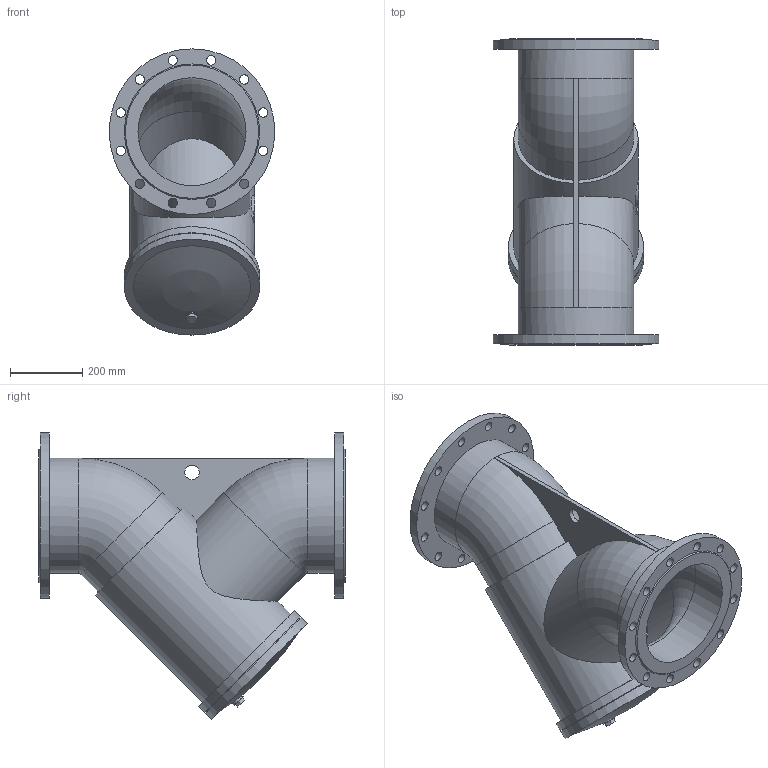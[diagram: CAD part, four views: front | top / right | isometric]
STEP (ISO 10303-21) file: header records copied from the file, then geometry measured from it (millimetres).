
FILE_DESCRIPTION(('STEP AP203'), '1');
FILE_NAME('Ôèëüòð ñåò÷àòûé ôëàíöåâûé 021Y DN300 PN16', '', ('UNSPECIFIED'), ('UNSPECIFIED'), 'ASCON STEP Converter 1.6', 'ASCON Math Kernel', '');
FILE_SCHEMA(('CONFIG_CONTROL_DESIGN'));
Length unit declared in the file: millimetre
Bounding box: 460 x 850 x 795 mm (x, y, z)
Volume: 57473907.3 mm3; surface area: 2579335.7 mm2
Topology: 1 solids, 1 shells, 92 faces, 218 edges, 141 vertices
Faces by surface type: cylinder 48, plane 37, torus 4, cone 2, sphere 1
Full cylindrical faces by diameter (mm): 26 x24, 35 x1, 40 x1, 300 x4, 320 x2, 346 x1, 364 x1, 376 x2, 460 x2
Entity records: 4462 total; most frequent: CARTESIAN_POINT 1570, DIRECTION 447, ORIENTED_EDGE 346, EDGE_LOOP 199, AXIS2_PLACEMENT_3D 194, EDGE_CURVE 173, VERTEX_POINT 140, FACE_BOUND 118
